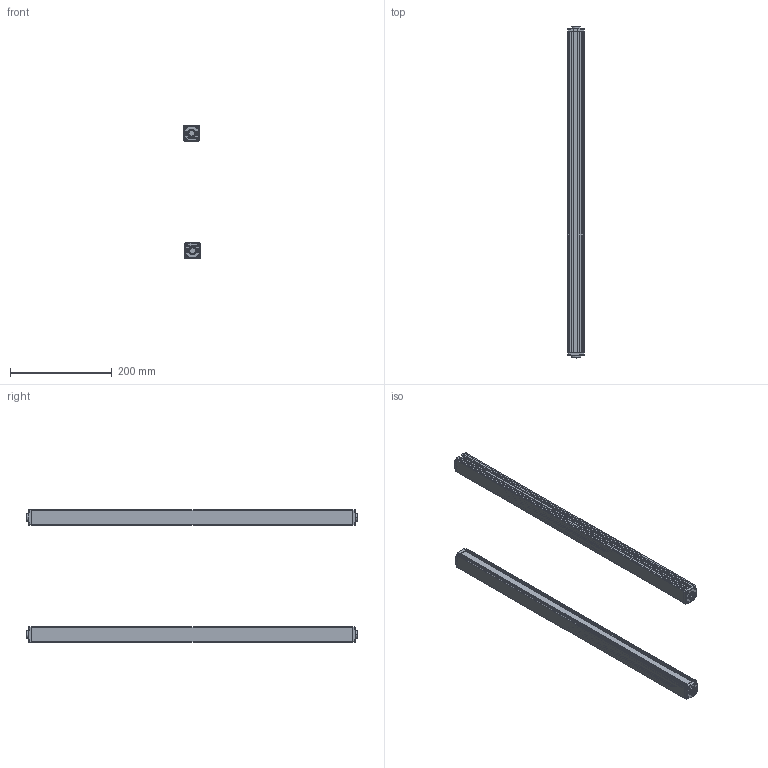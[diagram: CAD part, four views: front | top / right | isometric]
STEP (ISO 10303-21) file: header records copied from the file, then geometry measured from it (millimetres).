
FILE_DESCRIPTION (( 'STEP AP203' ), '1' );
FILE_NAME ('ZDA1640-630.STEP', '2022-08-30T07:44:09', ( 'Windows 蚚誧' ), ( 'Organization' ), 'SwSTEP 2.0', 'SolidWorks 2020', '' );
FILE_SCHEMA (( 'CONFIG_CONTROL_DESIGN' ));
Length unit declared in the file: millimetre
Products named in the file (5): 錨璃10; ZDA1640-630; 錨璃1; 錨璃8; 錨璃8 - 萵掛 (2)
Assembly tree (8 placements, depth 2):
  ZDA1640-630
    錨璃1  x2
    錨璃8  x2
    錨璃8 - 萵掛 (2)  x2
    錨璃10  x2
Bounding box: 32.36 x 651.4 x 260.35 mm (x, y, z)
Volume: 404132 mm3; surface area: 428646.5 mm2
Topology: 8 solids, 8 shells, 1032 faces, 2690 edges, 1668 vertices
Faces by surface type: plane 464, cylinder 310, cone 120, bspline 58, torus 48, sphere 32
Entity records: 17901 total; most frequent: CARTESIAN_POINT 4731, ORIENTED_EDGE 2666, DIRECTION 2616, EDGE_CURVE 1333, AXIS2_PLACEMENT_3D 894, VERTEX_POINT 834, VECTOR 828, LINE 828
